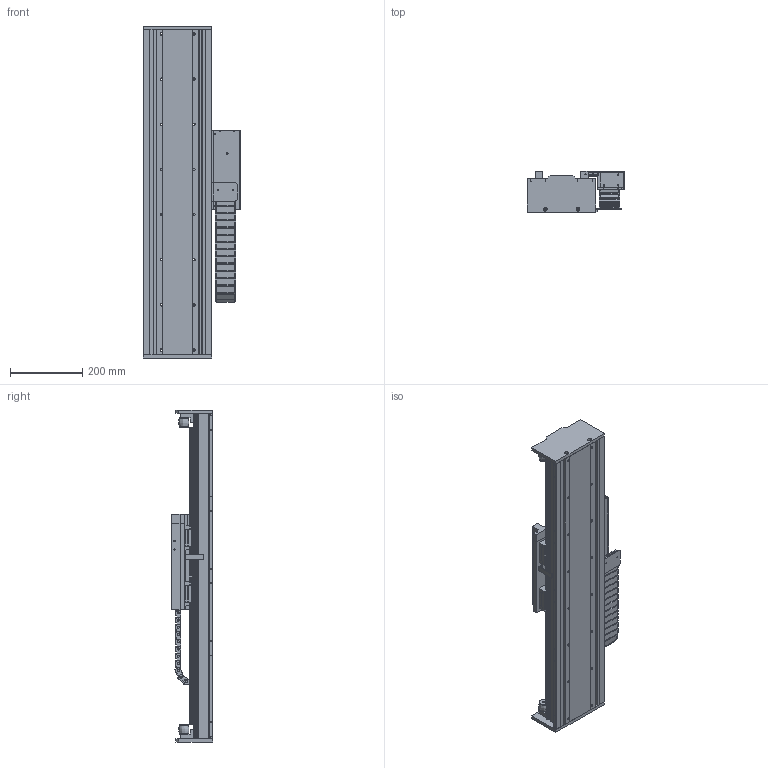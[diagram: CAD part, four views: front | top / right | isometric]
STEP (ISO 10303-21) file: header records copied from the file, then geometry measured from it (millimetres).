
FILE_DESCRIPTION (( 'STEP AP203' ), '1' );
FILE_NAME ('STF50200C-xC1B-Axx.STEP', '2007-10-29T13:16:38', ( 'Yaskawa' ), ( 'Yaskawa' ), 'SwSTEP 2.0', 'SolidWorks 2007', '' );
FILE_SCHEMA (( 'CONFIG_CONTROL_DESIGN' ));
Products named in the file (56): 07.50.038.0_23; 07.50.038.0_24; STF50200C-xC1B-Axx; STF50200C; STCM-001-R2 Cable Bracket; STF50-003 Renishaw Encoder Bracket; STF50 Large End Stop; SGLFM-50405AC; STF50-0200-R1 Carriage; STF50-007 End Stop; Large Bumper; RGH22B; STCM-R1; STF50-001A F50-200 Carriage; SGLFW-50A200AP; SSR20 Rail 820_820; STF50-004 Flag; 07.50.038.0_39; STF50200 Base_STF50BM-003; STCM-007 Lower E-Chain Bracket; STCM-006-R1 Upper E-chain Bracket; STCM-005-R1 Cable Assembly Cover; STCM-004 Cable Assembly Side; STCM-003 Cable Assembly Bottom; STCM-002-R2 Cable Assembly Front; 07.50.038.0_27; 07.50.038.0_28; 07.50.038.0_21; 07.50.038.0_22; 07.50.038.0_25; 07.50.038.0_26; 07.50.038.0_29; Serial Converter; 07.50.038.0_30; 07.50.038.0_34; 07.50.038.0_35; 07.50.038.0_36; 07.50.038.0_37; 07.50.038.0_38; 07.50.038.0_40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
Assembly tree (69 placements, depth 4):
  STF50200C-xC1B-Axx
    SSR20 Rail 820_820  x2
    STF50 Large End Stop  x4
      STF50-007 End Stop
      Large Bumper
    STF50-006 Endplate  x2
    STF50200 Base_STF50BM-003
    STCM-007 Lower E-Chain Bracket
    STF50200C
      07.50.038.0_34
      07.50.038.0_21
      07.50.038.0_32  x3
      07.50.038.0_38
      07.50.038.0_45
      07.50.038.0_27
      07.50.038.0_29
      07.50.038.0_31  x2
      07.50.038.0_43
      07.50.038.0_22
      B18.3.5M - 3 x 0.5 x 6 Socket FCHS  -- 6N_B18.3.5M - 3 x 0.5 x 6 Socket FCHS  -- 6N  x2
      07.50.038.0_39
      07.50.038.0_41
      07.50.038.0_47
      07.50.038.0_37
      07.50.038.0_20
      07.50.038.0_25
      07.50.038.0_30
      07.50.038.0_26
      07.50.038.0_40
      07.50.038.0_23
      07.50.038.0_36
      07.50.038.0_42
      07.50.038.0_28
      07.50.038.0_33
      07.50.038.0_44
      07.50.038.0_24
      07.50.038.0_35
      07.50.038.0_46
    STF50-0200-R1 Carriage
      SSR20W Block  x4
      STF50-002A-R1 F50-200 Carriage Horn  x2
      STF50-005-R2 Cable Router
      STF50-003 Renishaw Encoder Bracket
      SGLFW-50A200AP
      STF50-004 Flag
      RGH22B
      STCM-R1
        STCM-001-R2 Cable Bracket
        STCM-004 Cable Assembly Side
        STCM-006-R1 Upper E-chain Bracket
        STCM-003 Cable Assembly Bottom
        STCM-002-R2 Cable Assembly Front
        Serial Converter
        STCM-005-R1 Cable Assembly Cover
      STF50-001A F50-200 Carriage
    SGLFM-50405AC  x2
Bounding box: 269.74 x 115 x 919.05 mm (x, y, z)
Volume: 7902980.9 mm3; surface area: 1797541.4 mm2
Topology: 97 solids, 97 shells, 4541 faces, 11962 edges, 7658 vertices
Faces by surface type: plane 2295, cylinder 1890, cone 340, bspline 8, torus 8
Entity records: 118834 total; most frequent: DIRECTION 19962, CARTESIAN_POINT 19857, ORIENTED_EDGE 18680, EDGE_CURVE 9340, AXIS2_PLACEMENT_3D 6962, VERTEX_POINT 6123, LINE 6038, VECTOR 6038
